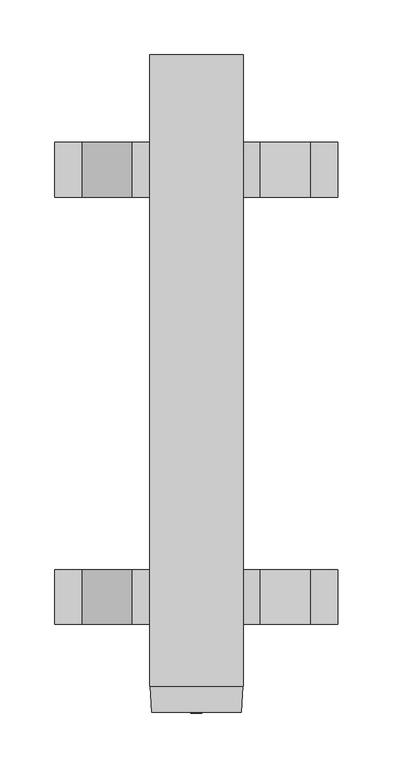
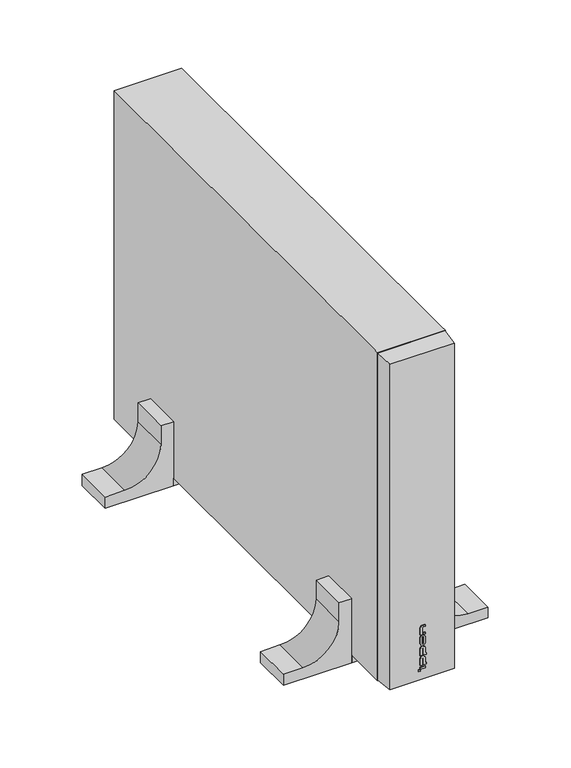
"""IFC4 building model written with IfcOpenShell, lengths in millimetres: proxy geometry, IPPON_ИБП_Innova RT II_1000_1500_2000_3000ВА : INNOVA RT II 2000 ВА."""

import ifcopenshell
import ifcopenshell.guid

model = None  # the IFC model being written
_history = None  # IfcOwnerHistory: only IFC2X3 demands one
_inside = {}  # id of a spatial element -> (the spatial element, [elements in it])
_under = {}  # id of a project, library or spatial element -> (it, [spatial elements below it])
_declared = {}  # id of a project -> (the project, [libraries it declares])
_typed = {}  # id of a type object -> (the type object, [elements of that type])
_made_of = {}  # id of a material, layer set ... -> (it, [elements and type objects made of it])


def new_model(schema):
    """Start an empty IFC model of exactly this schema.

    Asked for "IFC4X3", IfcOpenShell would pick the latest addendum, in which some entities
    have other attributes; the version numbers below select the first issue.
    IFC2X3 requires an IfcOwnerHistory on every rooted entity: one is made here for all.
    """
    global model, _history
    if schema == "IFC4X3":
        model = ifcopenshell.file(schema_version=(4, 3, 0, 0))
    else:
        model = ifcopenshell.file(schema=schema)
    _inside.clear()
    _under.clear()
    _declared.clear()
    _typed.clear()
    _made_of.clear()
    _history = None
    if model.schema == "IFC2X3":
        org = make("IfcOrganization", Name="unknown")
        user = make(
            "IfcPersonAndOrganization",
            ThePerson=make("IfcPerson", FamilyName="unknown"),
            TheOrganization=org,
        )
        app = make(
            "IfcApplication",
            ApplicationDeveloper=org,
            Version="unknown",
            ApplicationFullName="unknown",
            ApplicationIdentifier="unknown",
        )
        _history = make(
            "IfcOwnerHistory",
            OwningUser=user,
            OwningApplication=app,
            ChangeAction="ADDED",
            CreationDate=0,
        )
    return model


def make(cls, **values):
    """One entity of the class cls with the attributes given. An attribute that is None is left unset."""
    return model.create_entity(
        cls, **{name: value for name, value in values.items() if value is not None}
    )


def rooted(cls, **values):
    """An entity with a GlobalId (a new one), such as an element, a storey or a relation."""
    return make(cls, GlobalId=ifcopenshell.guid.new(), OwnerHistory=_history, **values)


def si_unit(unit_type, name, prefix=None):
    """IfcSIUnit, for example si_unit("LENGTHUNIT", "METRE", prefix="MILLI")."""
    return make("IfcSIUnit", UnitType=unit_type, Prefix=prefix, Name=name)


def assignment(units):
    """IfcUnitAssignment: the units of a project."""
    return None if units is None else make("IfcUnitAssignment", Units=units)


def point(xyz):
    """IfcCartesianPoint."""
    return None if xyz is None else make("IfcCartesianPoint", Coordinates=xyz)


def direction(xyz):
    """IfcDirection."""
    return None if xyz is None else make("IfcDirection", DirectionRatios=xyz)


def frame(location, z_axis=None, x_axis=None):
    """IfcAxis2Placement3D, a coordinate frame: its origin and axes. An axis left out is left unset."""
    return make(
        "IfcAxis2Placement3D",
        Location=point(location),
        Axis=direction(z_axis),
        RefDirection=direction(x_axis),
    )


def frame_2d(location, x_axis=None):
    """IfcAxis2Placement2D, a coordinate frame in the plane: its origin and x axis."""
    return make(
        "IfcAxis2Placement2D", Location=point(location), RefDirection=direction(x_axis)
    )


def origin():
    """The frame at (0, 0, 0) with its axes left unset."""
    return frame((0.0, 0.0, 0.0))


def origin_with_axes():
    """The frame at (0, 0, 0) with the z axis (0, 0, 1) and the x axis (1, 0, 0) written out."""
    return frame((0.0, 0.0, 0.0), z_axis=(0.0, 0.0, 1.0), x_axis=(1.0, 0.0, 0.0))


def place(relative_to, where):
    """IfcLocalPlacement: puts the frame where relative to a parent placement (None: the world)."""
    return make(
        "IfcLocalPlacement", PlacementRelTo=relative_to, RelativePlacement=where
    )


def context(
    kind, dimensions, precision=None, world=None, true_north=None, identifier=None
):
    """IfcGeometricRepresentationContext, for example the 3D "Model" context."""
    return make(
        "IfcGeometricRepresentationContext",
        ContextIdentifier=identifier,
        ContextType=kind,
        CoordinateSpaceDimension=dimensions,
        Precision=precision,
        WorldCoordinateSystem=world,
        TrueNorth=true_north,
    )


def project(units=None, contexts=None):
    """IfcProject with its units and contexts."""
    return rooted(
        "IfcProject",
        Name="project",
        RepresentationContexts=contexts,
        UnitsInContext=assignment(units),
    )


def spatial(cls, under=None, at=None, **own):
    """A site, building, storey or space (cls), placed at a placement, below another one or the project."""
    s = rooted(cls, ObjectPlacement=at, **own)
    if under is not None:
        _under.setdefault(under.id(), (under, []))[1].append(s)
    return s


def polyline(points):
    """IfcPolyline through the points."""
    return make("IfcPolyline", Points=[point(p) for p in points])


def circle_curve(where, radius):
    """IfcCircle in the frame where."""
    return make("IfcCircle", Position=where, Radius=radius)


def trimmed(basis, trim1, trim2, sense, master):
    """IfcTrimmedCurve: the piece of a basis curve between two trims."""
    return make(
        "IfcTrimmedCurve",
        BasisCurve=basis,
        Trim1=trim1,
        Trim2=trim2,
        SenseAgreement=sense,
        MasterRepresentation=master,
    )


def segment(curve, same_sense, transition):
    """IfcCompositeCurveSegment."""
    return make(
        "IfcCompositeCurveSegment",
        Transition=transition,
        SameSense=same_sense,
        ParentCurve=curve,
    )


def composite_curve(segments, self_intersect=None):
    """IfcCompositeCurve: segments joined end to end."""
    return make("IfcCompositeCurve", Segments=segments, SelfIntersect=self_intersect)


def outline(outer, holes=None, kind="AREA"):
    """IfcArbitraryClosedProfileDef: a profile drawn as a closed curve; with holes, ...WithVoids."""
    if holes is None:
        return make("IfcArbitraryClosedProfileDef", ProfileType=kind, OuterCurve=outer)
    return make(
        "IfcArbitraryProfileDefWithVoids",
        ProfileType=kind,
        OuterCurve=outer,
        InnerCurves=holes,
    )


def extrude(swept, where, along, depth):
    """IfcExtrudedAreaSolid: the profile swept, set in the frame where, extruded along a direction by depth."""
    return make(
        "IfcExtrudedAreaSolid",
        SweptArea=swept,
        Position=where,
        ExtrudedDirection=direction(along),
        Depth=depth,
    )


def faces_of(points, faces, orient=None, outer=None):
    """IfcFace entities. A face is a list of loops; a loop is a list of indices into points, from 0.

    orient and outer hold one flag for each loop. By default every Orientation is true, the
    first loop of a face is its IfcFaceOuterBound and the others are IfcFaceBound.
    """
    made = []
    for i, loops in enumerate(faces):
        bounds = []
        for j, loop in enumerate(loops):
            is_outer = j == 0 if outer is None else outer[i][j]
            bounds.append(
                make(
                    "IfcFaceOuterBound" if is_outer else "IfcFaceBound",
                    Bound=make("IfcPolyLoop", Polygon=[points[k] for k in loop]),
                    Orientation=True if orient is None else orient[i][j],
                )
            )
        made.append(make("IfcFace", Bounds=bounds))
    return made


def faceted_brep(points, faces, orient=None, outer=None, voids=None):
    """IfcFacetedBrep: a solid bounded by flat faces; with voids (closed shells), ...WithVoids."""
    shared = [point(p) for p in points]
    hull = make("IfcClosedShell", CfsFaces=faces_of(shared, faces, orient, outer))
    if voids is None:
        return make("IfcFacetedBrep", Outer=hull)
    return make(
        "IfcFacetedBrepWithVoids",
        Outer=hull,
        Voids=[
            make(cls, CfsFaces=faces_of(shared, fs, o, b)) for cls, fs, o, b in voids
        ],
    )


def shape(context_of_items, identifier, shape_type, items):
    """IfcShapeRepresentation: the items that make up one representation, for example the "Body"."""
    return make(
        "IfcShapeRepresentation",
        ContextOfItems=context_of_items,
        RepresentationIdentifier=identifier,
        RepresentationType=shape_type,
        Items=items,
    )


def source(mapping_origin, context_of_items, identifier, shape_type, items):
    """IfcRepresentationMap: a shape defined once, which mapped items show again and again."""
    return make(
        "IfcRepresentationMap",
        MappingOrigin=mapping_origin,
        MappedRepresentation=shape(context_of_items, identifier, shape_type, items),
    )


def transform(
    local_origin,
    x_axis=None,
    y_axis=None,
    z_axis=None,
    scale=None,
    scale2=None,
    scale3=None,
    uniform=True,
):
    """IfcCartesianTransformationOperator3D, or its non-uniform kind. x_axis, y_axis, z_axis: its Axis1, 2, 3."""
    if uniform:
        return make(
            "IfcCartesianTransformationOperator3D",
            Axis1=direction(x_axis),
            Axis2=direction(y_axis),
            LocalOrigin=point(local_origin),
            Scale=scale,
            Axis3=direction(z_axis),
        )
    return make(
        "IfcCartesianTransformationOperator3DnonUniform",
        Axis1=direction(x_axis),
        Axis2=direction(y_axis),
        LocalOrigin=point(local_origin),
        Scale=scale,
        Axis3=direction(z_axis),
        Scale2=scale2,
        Scale3=scale3,
    )


def mapped(mapping_source, mapping_target):
    """IfcMappedItem: shows the shape of a source again, moved by a transform."""
    return make(
        "IfcMappedItem", MappingSource=mapping_source, MappingTarget=mapping_target
    )


def made_of(thing, what):
    """Note that an element or type object is made of a material, layer set ...; save() writes the relation."""
    if what is not None:
        _made_of.setdefault(what.id(), (what, []))[1].append(thing)
    return thing


def element(
    cls,
    number,
    at=None,
    inside=None,
    cuts=None,
    type_object=None,
    material=None,
    context=None,
    identifier="Body",
    shape_type=None,
    held_by="IfcProductDefinitionShape",
    body=None,
    shapes=None,
    **own,
):
    """One element of the class cls, such as IfcWall. Its Tag is "e" and its number.

    at: its placement. inside: the storey or other place that contains it. cuts: it is an
    opening in that element (IfcRelVoidsElement). A single representation is given by context,
    identifier, shape_type and body (its items); several are given by shapes. held_by: the class
    of the entity that holds the representations. save() writes the other relations.
    """
    e = rooted(cls, Tag="e%d" % number, ObjectPlacement=at, **own)
    if body is not None:
        shapes = [shape(context, identifier, shape_type, body)]
    if shapes is not None:
        e.Representation = make(held_by, Representations=shapes)
    if inside is not None:
        _inside.setdefault(inside.id(), (inside, []))[1].append(e)
    if cuts is not None:
        rooted(
            "IfcRelVoidsElement", RelatingBuildingElement=cuts, RelatedOpeningElement=e
        )
    if type_object is not None:
        _typed.setdefault(type_object.id(), (type_object, []))[1].append(e)
    return made_of(e, material)


def aggregate(whole, parts):
    """IfcRelAggregates: a whole, such as a stair, and the parts it consists of."""
    return rooted("IfcRelAggregates", RelatingObject=whole, RelatedObjects=parts)


def save(model, path):
    """Write the relations noted so far, then the file.

    IfcRelAggregates (storeys below a building ...), IfcRelContainedInSpatialStructure (elements
    in a storey), IfcRelDefinesByType, IfcRelAssociatesMaterial and IfcRelDeclares: one each for
    every whole, place, type object, material and project.
    """
    for whole, parts in _under.values():
        aggregate(whole, parts)
    for where, things in _inside.values():
        rooted(
            "IfcRelContainedInSpatialStructure",
            RelatedElements=things,
            RelatingStructure=where,
        )
    for kind, things in _typed.values():
        rooted("IfcRelDefinesByType", RelatedObjects=things, RelatingType=kind)
    for what, things in _made_of.values():
        rooted("IfcRelAssociatesMaterial", RelatedObjects=things, RelatingMaterial=what)
    for by, libraries in _declared.values():
        rooted("IfcRelDeclares", RelatingContext=by, RelatedDefinitions=libraries)
    model.write(path)


def electrical_equipment_f96a9f60(model_context):
    return source(origin(), model_context, "Body", "SolidModel", [
        extrude(outline(polyline([(-2.7362511, -1.0), (-5.0362511, -1.0), (-5.0362511, 0.0), (-2.7362511, 0.0), (-2.7362511, -1.0)])), frame((0.0, 0.0, 24.0), z_axis=(0.0, 0.0, 1.0), x_axis=(1.0, 0.0, 0.0)), (0.0, 0.0, 1.0), 2.0),
        extrude(outline(polyline([(3.2637489, -1.0), (1.0369258, -1.0), (1.0369258, 0.0), (3.2637489, 0.0), (3.2637489, -1.0)])), frame((0.0, 0.0, 71.7753606), z_axis=(0.0, 0.0, 1.0), x_axis=(1.0, 0.0, 0.0)), (0.0, 0.0, 1.0), 2.0),
        extrude(outline(polyline([(3.2637489, -1.0), (-2.7362511, -1.0), (-2.7362511, 0.0), (3.2637489, 0.0), (3.2637489, -1.0)])), frame((0.0, 0.0, 26.6884808), z_axis=(0.0, 0.0, 1.0), x_axis=(1.0, 0.0, 0.0)), (0.0, 0.0, 1.0), 2.0447674),
        extrude(outline(composite_curve([segment(polyline([(30.9477024, -0.4738111), (40.1794597, -0.4738111)]), True, "CONTINUOUS"), segment(trimmed(circle_curve(frame_2d((40.1794597, 0.3826682)), 0.8564793), [point((40.1794597, -0.4738111))], [point((40.1794597, 1.2391475))], True, "CARTESIAN"), True, "CONTINUOUS"), segment(polyline([(40.1794597, 1.2391475), (30.9477024, 1.2391475), (30.9477024, 4.7296521), (32.9477024, 4.7296521), (32.9477024, 3.2637489), (40.0232097, 3.2637489)]), True, "CONTINUOUS"), segment(trimmed(circle_curve(frame_2d((40.0232097, 0.2637489)), 3.0), [point((40.0232097, 3.2637489))], [point((40.0232097, -2.7362511))], False, "CARTESIAN"), True, "CONTINUOUS"), segment(polyline([(40.0232097, -2.7362511), (30.9477024, -2.7362511), (30.9477024, -0.4738111)]), True, "CONTINUOUS")], self_intersect=False)), frame((0.0, -1.0, 0.0), z_axis=(0.0, 1.0, 0.0), x_axis=(0.0, 0.0, 1.0)), (0.0, 0.0, 1.0), 1.0),
        extrude(outline(composite_curve([segment(polyline([(44.1547042, -0.4738111), (53.3864614, -0.4738111)]), True, "CONTINUOUS"), segment(trimmed(circle_curve(frame_2d((53.3864614, 0.3826682)), 0.8564793), [point((53.3864614, -0.4738111))], [point((53.3864614, 1.2391475))], True, "CARTESIAN"), True, "CONTINUOUS"), segment(polyline([(53.3864614, 1.2391475), (44.1547042, 1.2391475), (44.1547042, 4.7296521), (46.1547042, 4.7296521), (46.1547042, 3.2637489), (53.2302114, 3.2637489)]), True, "CONTINUOUS"), segment(trimmed(circle_curve(frame_2d((53.2302114, 0.2637489)), 3.0), [point((53.2302114, 3.2637489))], [point((53.2302114, -2.7362511))], False, "CARTESIAN"), True, "CONTINUOUS"), segment(polyline([(53.2302114, -2.7362511), (44.1547042, -2.7362511), (44.1547042, -0.4738111)]), True, "CONTINUOUS")], self_intersect=False)), frame((0.0, -1.0, 0.0), z_axis=(0.0, 1.0, 0.0), x_axis=(0.0, 0.0, 1.0)), (0.0, 0.0, 1.0), 1.0),
        extrude(outline(composite_curve([segment(trimmed(circle_curve(frame_2d((67.7304703, 0.2637489)), 3.0), [point((67.7304703, 3.2637489))], [point((67.7304703, -2.7362511))], False, "CARTESIAN"), True, "CONTINUOUS"), segment(polyline([(67.7304703, -2.7362511), (60.1304703, -2.7362511)]), True, "CONTINUOUS"), segment(trimmed(circle_curve(frame_2d((60.1304703, 0.2637489)), 3.0), [point((60.1304703, -2.7362511))], [point((60.1304703, 3.2637489))], False, "CARTESIAN"), True, "CONTINUOUS"), segment(polyline([(60.1304703, 3.2637489), (67.7304703, 3.2637489)]), True, "CONTINUOUS")], self_intersect=False), holes=[composite_curve([segment(polyline([(67.8867203, 1.2391475), (59.9742203, 1.2391475)]), True, "CONTINUOUS"), segment(trimmed(circle_curve(frame_2d((59.9742203, 0.3826682)), 0.8564793), [point((59.9742203, 1.2391475))], [point((59.9742203, -0.4738111))], True, "CARTESIAN"), True, "CONTINUOUS"), segment(polyline([(59.9742203, -0.4738111), (67.8867203, -0.4738111)]), True, "CONTINUOUS"), segment(trimmed(circle_curve(frame_2d((67.8867203, 0.3826682)), 0.8564793), [point((67.8867203, -0.4738111))], [point((67.8867203, 1.2391475))], True, "CARTESIAN"), True, "CONTINUOUS")], self_intersect=False)]), frame((0.0, -1.0, 0.0), z_axis=(0.0, 1.0, 0.0), x_axis=(0.0, 0.0, 1.0)), (0.0, 0.0, 1.0), 1.0),
        extrude(outline(composite_curve([segment(polyline([(71.7753606, -0.4738111), (81.0071179, -0.4738111)]), True, "CONTINUOUS"), segment(trimmed(circle_curve(frame_2d((81.0071179, 0.3826682)), 0.8564793), [point((81.0071179, -0.4738111))], [point((81.8635972, 0.3826682))], True, "CARTESIAN"), True, "CONTINUOUS"), segment(polyline([(81.8635972, 0.3826682), (81.8635972, 3.2637489), (83.8036054, 3.2637489), (83.8036054, -0.2666676)]), True, "CONTINUOUS"), segment(trimmed(circle_curve(frame_2d((80.8508679, 0.2637489)), 3.0), [point((83.8036054, -0.2666676))], [point((80.8508679, -2.7362511))], False, "CARTESIAN"), True, "CONTINUOUS"), segment(polyline([(80.8508679, -2.7362511), (71.7753606, -2.7362511), (71.7753606, -0.4738111)]), True, "CONTINUOUS")], self_intersect=False)), frame((0.0, -1.0, 0.0), z_axis=(0.0, 1.0, 0.0), x_axis=(0.0, 0.0, 1.0)), (0.0, 0.0, 1.0), 1.0),
        extrude(outline(polyline([(-42.75, 520.0), (42.75, 520.0), (42.75, 470.0), (-42.75, 470.0), (-42.75, 520.0)])), origin_with_axes(), (0.0, 0.0, 1.0), 10.0),
        extrude(outline(polyline([(42.75, 80.0), (-42.75, 80.0), (-42.75, 130.0), (42.75, 130.0), (42.75, 80.0)])), origin_with_axes(), (0.0, 0.0, 1.0), 10.0),
        extrude(outline(composite_curve([segment(polyline([(0.0, -42.75), (85.5, -42.75), (85.5, -58.75), (60.5, -58.75)]), True, "CONTINUOUS"), segment(trimmed(circle_curve(frame_2d((60.5, -104.25)), 45.5), [point((60.5, -58.75))], [point((15.0, -104.25))], True, "CARTESIAN"), True, "CONTINUOUS"), segment(polyline([(15.0, -104.25), (15.0, -129.25), (0.0, -129.25), (0.0, -42.75)]), True, "CONTINUOUS")], self_intersect=False)), frame((0.0, 470.0, 0.0), z_axis=(0.0, 1.0, 0.0), x_axis=(0.0, 0.0, 1.0)), (0.0, 0.0, 1.0), 50.0),
        extrude(outline(composite_curve([segment(polyline([(0.0, -42.75), (85.5, -42.75), (85.5, -58.75), (60.5, -58.75)]), True, "CONTINUOUS"), segment(trimmed(circle_curve(frame_2d((60.5, -104.25)), 45.5), [point((60.5, -58.75))], [point((15.0, -104.25))], True, "CARTESIAN"), True, "CONTINUOUS"), segment(polyline([(15.0, -104.25), (15.0, -129.25), (0.0, -129.25), (0.0, -42.75)]), True, "CONTINUOUS")], self_intersect=False)), frame((0.0, 80.0, 0.0), z_axis=(0.0, 1.0, 0.0), x_axis=(0.0, 0.0, 1.0)), (0.0, 0.0, 1.0), 50.0),
        extrude(outline(composite_curve([segment(polyline([(0.0, 129.25), (14.0, 129.25), (14.0, 104.25)]), True, "CONTINUOUS"), segment(trimmed(circle_curve(frame_2d((60.5, 104.25)), 46.5), [point((14.0, 104.25))], [point((60.5, 57.75))], True, "CARTESIAN"), True, "CONTINUOUS"), segment(polyline([(60.5, 57.75), (85.5, 57.75), (85.5, 42.75), (0.0, 42.75), (0.0, 129.25)]), True, "CONTINUOUS")], self_intersect=False)), frame((0.0, 470.0, 0.0), z_axis=(0.0, 1.0, 0.0), x_axis=(0.0, 0.0, 1.0)), (0.0, 0.0, 1.0), 50.0),
        extrude(outline(composite_curve([segment(polyline([(0.0, 42.75), (0.0, 129.25), (14.0, 129.25), (14.0, 104.25)]), True, "CONTINUOUS"), segment(trimmed(circle_curve(frame_2d((60.5, 104.25)), 46.5), [point((14.0, 104.25))], [point((60.5, 57.75))], True, "CARTESIAN"), True, "CONTINUOUS"), segment(polyline([(60.5, 57.75), (85.5, 57.75), (85.5, 42.75), (0.0, 42.75)]), True, "CONTINUOUS")], self_intersect=False)), frame((0.0, 80.0, 0.0), z_axis=(0.0, 1.0, 0.0), x_axis=(0.0, 0.0, 1.0)), (0.0, 0.0, 1.0), 50.0),
        faceted_brep([(40.75, 0.0, 12.0), (40.75, 0.0, 446.0), (-40.75, 0.0, 446.0), (-40.75, 0.0, 12.0), (42.1748599, 23.5101876, 10.5751401), (42.1748599, 23.5101876, 447.4248599), (-42.1748599, 23.5101876, 447.4248599), (-42.1748599, 23.5101876, 10.5751401), (42.75, 600.0, 448.0), (42.75, 600.0, 10.0), (-42.75, 600.0, 10.0), (-42.75, 600.0, 448.0), (42.75, 23.5101876, 448.0), (-42.75, 23.5101876, 448.0), (-42.75, 23.5101876, 10.0), (42.75, 23.5101876, 10.0), (-42.75, 33.0, 448.0), (42.75, 33.0, 448.0), (-42.75, 33.0, 10.0), (42.75, 33.0, 10.0)], [[[0, 1, 2, 3]], [[1, 0, 4, 5]], [[2, 1, 5, 6]], [[3, 2, 6, 7]], [[0, 3, 7, 4]], [[8, 9, 10, 11]], [[12, 13, 14, 15], [5, 4, 7, 6]], [[8, 11, 16, 13, 12, 17]], [[11, 10, 18, 14, 13, 16]], [[10, 9, 19, 15, 14, 18]], [[9, 8, 17, 12, 15, 19]]]),
    ])


if __name__ == "__main__":
    model = new_model("IFC4")
    model_context = context("Model", 3, world=origin())
    ifc_project = project(units=[si_unit("LENGTHUNIT", "METRE", prefix="MILLI")], contexts=[model_context])
    site = spatial("IfcSite", under=ifc_project)
    building = spatial("IfcBuilding", under=site)
    placement = place(None, origin())
    electrical_equipment_shape = electrical_equipment_f96a9f60(model_context)
    element("IfcBuildingElementProxy", 1, Name="IPPON_ИБП_Innova RT II_1000_1500_2000_3000ВА : INNOVA RT II 2000 ВА", ObjectType="IPPON_ИБП_Innova RT II_1000_1500_2000_3000ВА : INNOVA RT II 2000 ВА", at=placement, inside=building, context=model_context, shape_type="MappedRepresentation", body=[
        mapped(electrical_equipment_shape, transform((0.0, 0.0, 0.0), x_axis=(1.0, 0.0, 0.0), y_axis=(0.0, 1.0, 0.0), z_axis=(0.0, 0.0, 1.0))),
    ])
    save(model, "model.ifc")
